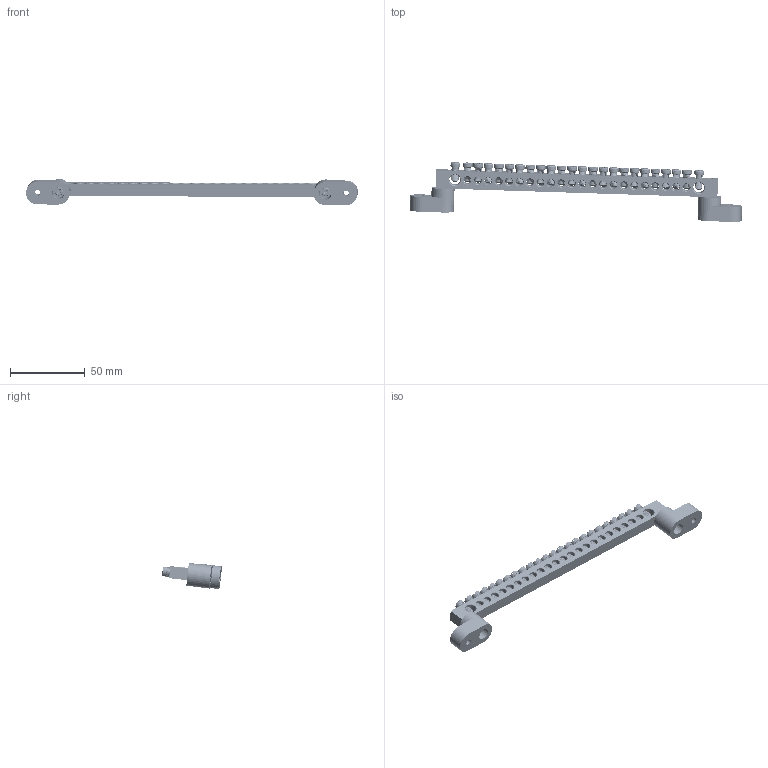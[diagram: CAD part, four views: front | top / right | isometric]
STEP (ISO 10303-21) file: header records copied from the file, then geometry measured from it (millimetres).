
FILE_DESCRIPTION (( 'STEP AP214' ), '1' );
FILE_NAME ('277918 OptiKit BB-T-N-S-24-8õ12-ñèíèé.STEP', '2020-02-06T12:45:40', ( '' ), ( '' ), 'SwSTEP 2.0', 'SolidWorks 2018', '' );
FILE_SCHEMA (( 'AUTOMOTIVE_DESIGN' ));
Length unit declared in the file: millimetre
Products named in the file (6): Øèíà íóëåâàÿ ñ êðåïåæíûìè îòâåðñòèÿìè ïî êðàÿì 8õ12 24-2_1; Âèíò ì5; Øèíà 8õ12 24 2; DIN èçîëÿòîð 2; Âèíò ì4; 277918 OptiKit BB-T-N-S-24-8õ12-ñèíèé
Assembly tree (30 placements, depth 3):
  277918 OptiKit BB-T-N-S-24-8õ12-ñèíèé
    Âèíò ì4  x2
    DIN èçîëÿòîð 2  x2
    Øèíà íóëåâàÿ ñ êðåïåæíûìè îòâåðñòèÿìè ïî êðàÿì 8õ12 24-2_1
      Øèíà 8õ12 24 2
      Âèíò ì5  x24
Bounding box: 222.61 x 40.13 x 17.53 mm (x, y, z)
Volume: 27428.2 mm3; surface area: 23470.2 mm2
Topology: 29 solids, 29 shells, 2172 faces, 6010 edges, 3872 vertices
Faces by surface type: cylinder 836, plane 720, cone 354, torus 182, bspline 80
Entity records: 17368 total; most frequent: CARTESIAN_POINT 7622, ORIENTED_EDGE 1886, DIRECTION 1837, EDGE_CURVE 943, AXIS2_PLACEMENT_3D 731, VERTEX_POINT 592, EDGE_LOOP 469, VECTOR 375
